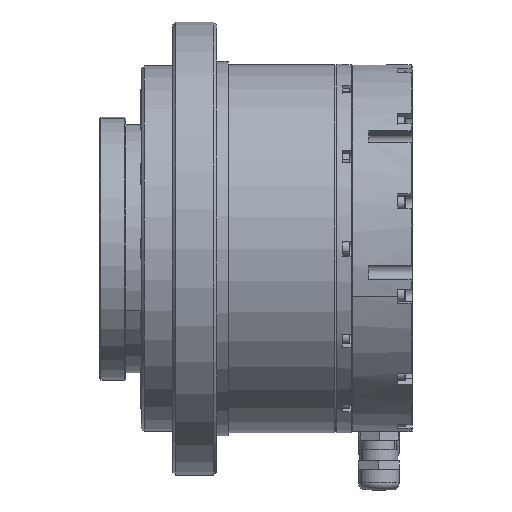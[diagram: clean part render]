
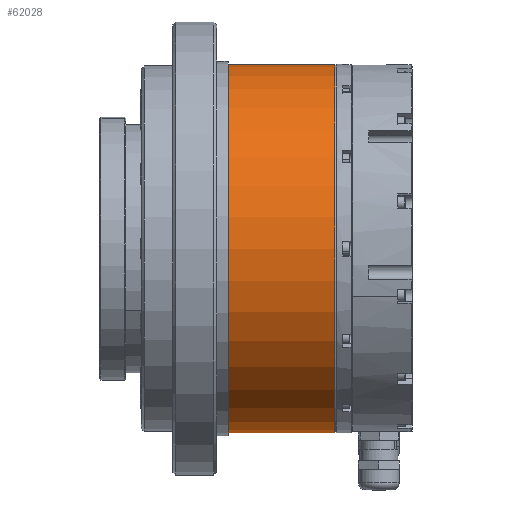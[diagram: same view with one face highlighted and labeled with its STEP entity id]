
A CAD part, front view. The second image highlights one B-rep face of the part: STEP entity #62028.
In plain terms, the highlighted cylindrical face has radius 63 mm (diameter 126 mm), a partial arc.
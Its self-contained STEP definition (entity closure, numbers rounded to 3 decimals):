
#5030 = CARTESIAN_POINT ( 'NONE',  ( 66.2, 0., -63. ) ) ;
#5473 = AXIS2_PLACEMENT_3D ( 'NONE', #58069, #25118, #48145 ) ;
#5496 = VECTOR ( 'NONE', #89416, 1000. ) ;
#6934 = CARTESIAN_POINT ( 'NONE',  ( 0., 0., -63. ) ) ;
#12073 = EDGE_CURVE ( 'NONE', #28741, #84500, #53465, .T. ) ;
#12471 = CIRCLE ( 'NONE', #5473, 63. ) ;
#13354 = ORIENTED_EDGE ( 'NONE', *, *, #12073, .T. ) ;
#14279 = ORIENTED_EDGE ( 'NONE', *, *, #21263, .F. ) ;
#15175 = LINE ( 'NONE', #6934, #5496 ) ;
#15758 = CIRCLE ( 'NONE', #19164, 63. ) ;
#16344 = EDGE_CURVE ( 'NONE', #37490, #28741, #12471, .T. ) ;
#17713 = CARTESIAN_POINT ( 'NONE',  ( 29.7, 0., -63. ) ) ;
#19164 = AXIS2_PLACEMENT_3D ( 'NONE', #57427, #34322, #49670 ) ;
#21263 = EDGE_CURVE ( 'NONE', #55919, #84500, #15758, .T. ) ;
#25118 = DIRECTION ( 'NONE',  ( -1., 0., 0. ) ) ;
#28741 = VERTEX_POINT ( 'NONE', #104345 ) ;
#34322 = DIRECTION ( 'NONE',  ( -1., 0., 0. ) ) ;
#35917 = DIRECTION ( 'NONE',  ( -1., 0., 0. ) ) ;
#37490 = VERTEX_POINT ( 'NONE', #5030 ) ;
#40298 = EDGE_LOOP ( 'NONE', ( #91849, #44598, #13354, #14279 ) ) ;
#42964 = FACE_OUTER_BOUND ( 'NONE', #40298, .T. ) ;
#44598 = ORIENTED_EDGE ( 'NONE', *, *, #16344, .T. ) ;
#48145 = DIRECTION ( 'NONE',  ( 0., 0., 1. ) ) ;
#49670 = DIRECTION ( 'NONE',  ( 0., 0., 1. ) ) ;
#53465 = LINE ( 'NONE', #86008, #94978 ) ;
#53838 = CARTESIAN_POINT ( 'NONE',  ( 0., 0., 0. ) ) ;
#55919 = VERTEX_POINT ( 'NONE', #17713 ) ;
#57427 = CARTESIAN_POINT ( 'NONE',  ( 29.7, 0., 0. ) ) ;
#58069 = CARTESIAN_POINT ( 'NONE',  ( 66.2, 0., 0. ) ) ;
#62028 = ADVANCED_FACE ( 'NONE', ( #42964 ), #85849, .T. ) ;
#72074 = DIRECTION ( 'NONE',  ( -1., 0., 0. ) ) ;
#80061 = CARTESIAN_POINT ( 'NONE',  ( 29.7, 0., 63. ) ) ;
#84115 = AXIS2_PLACEMENT_3D ( 'NONE', #53838, #72074, #104026 ) ;
#84500 = VERTEX_POINT ( 'NONE', #80061 ) ;
#85849 = CYLINDRICAL_SURFACE ( 'NONE', #84115, 63. ) ;
#86008 = CARTESIAN_POINT ( 'NONE',  ( 0., 0., 63. ) ) ;
#89416 = DIRECTION ( 'NONE',  ( -1., 0., 0. ) ) ;
#91849 = ORIENTED_EDGE ( 'NONE', *, *, #100420, .F. ) ;
#94978 = VECTOR ( 'NONE', #35917, 1000. ) ;
#100420 = EDGE_CURVE ( 'NONE', #37490, #55919, #15175, .T. ) ;
#104026 = DIRECTION ( 'NONE',  ( 0., 0., 1. ) ) ;
#104345 = CARTESIAN_POINT ( 'NONE',  ( 66.2, 0., 63. ) ) ;
